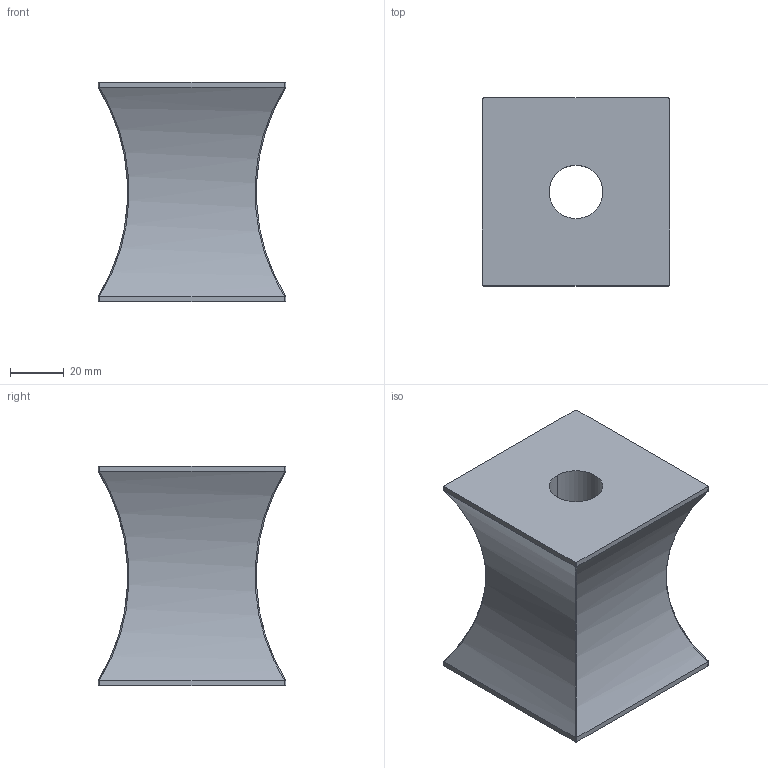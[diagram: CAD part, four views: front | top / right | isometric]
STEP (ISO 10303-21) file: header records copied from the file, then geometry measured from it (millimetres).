
FILE_DESCRIPTION(/* description */ (''),/* implementation_level */ '2;1');
FILE_NAME(/* name */ '3d_qx70-82_06520_r00.stp',/* time_stamp */ '2011-01-10T14:11:39+09:00',/* author */ ('MISUMI'),/* organization */ (''),/* preprocessor_version */ 'ST-DEVELOPER v11',/* originating_system */ 'UGS - NX 5.0',/* authorisation */ '');
FILE_SCHEMA (('CONFIG_CONTROL_DESIGN'));
Length unit declared in the file: millimetre
Products named in the file (1): 3d_qx70-82_06520_r00
Bounding box: 70 x 70 x 82 mm (x, y, z)
Volume: 233928.2 mm3; surface area: 33570.5 mm2
Topology: 1 solids, 1 shells, 28 faces, 78 edges, 52 vertices
Faces by surface type: cylinder 14, plane 10, bspline 4
Entity records: 4088 total; most frequent: CARTESIAN_POINT 3339, ORIENTED_EDGE 156, DIRECTION 108, EDGE_CURVE 78, VERTEX_POINT 52, AXIS2_PLACEMENT_3D 37, LINE 34, VECTOR 34
